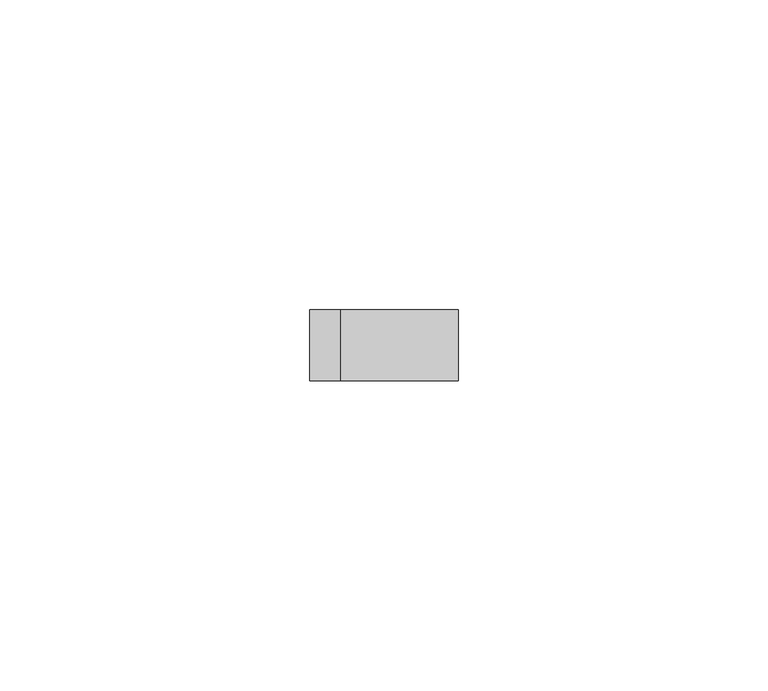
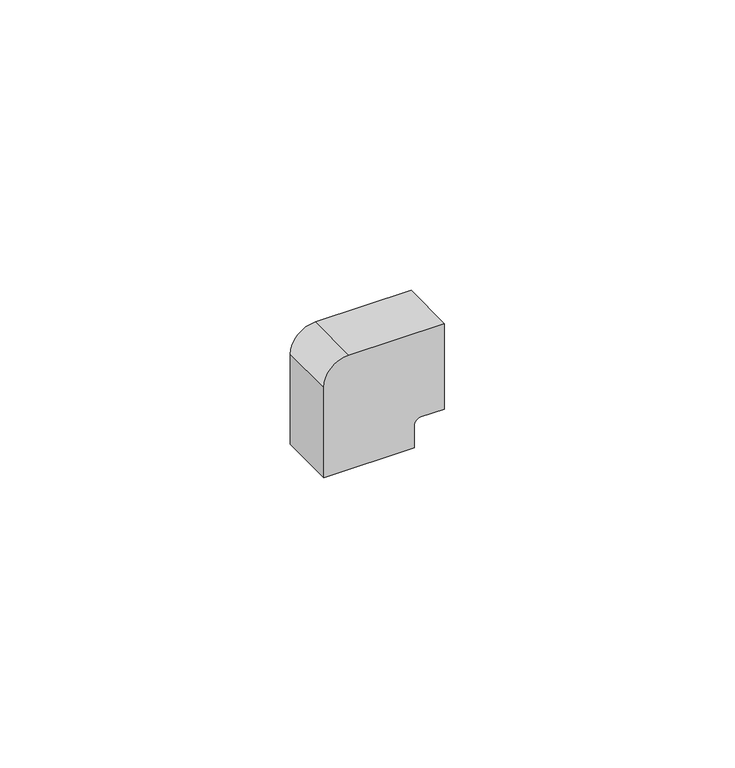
"""IFC4 building model written with IfcOpenShell, lengths in millimetres: proxy geometry, Поворот_на_90_гр.КМП : Поворот на 90 гр. КМП 15х10."""

from ifc_helpers import new_model, si_unit, point, frame, frame_2d, origin, place, context, project, spatial, polyline, circle_curve, trimmed, segment, composite_curve, outline, extrude, source, transform, mapped, element, save


def generic_models_15927b50(model_context):
    return source(origin(), model_context, "Body", "SweptSolid", [
        extrude(outline(composite_curve([segment(polyline([(2.0580612, -6.0), (6.7438905, -6.0)]), True, "CONTINUOUS"), segment(trimmed(circle_curve(frame_2d((6.7438905, -4.6858293)), 1.3141707), [point((6.7438905, -6.0))], [point((8.0580612, -4.6858293))], True, "CARTESIAN"), True, "CONTINUOUS"), segment(polyline([(8.0580612, -4.6858293), (8.0580612, 0.0), (26.0580612, 0.0), (26.0580612, -18.9954444)]), True, "CONTINUOUS"), segment(trimmed(circle_curve(frame_2d((21.0535056, -18.9954444)), 5.0045556), [point((26.0580612, -18.9954444))], [point((21.0535056, -24.0))], False, "CARTESIAN"), True, "CONTINUOUS"), segment(polyline([(21.0535056, -24.0), (2.0580612, -24.0), (2.0580612, -6.0)]), True, "CONTINUOUS")], self_intersect=False)), frame((0.0, -11.5, 0.0), z_axis=(0.0, 1.0, 0.0), x_axis=(0.0, 0.0, 1.0)), (0.0, 0.0, 1.0), 11.5),
    ])


if __name__ == "__main__":
    model = new_model("IFC4")
    model_context = context("Model", 3, world=origin())
    ifc_project = project(units=[si_unit("LENGTHUNIT", "METRE", prefix="MILLI")], contexts=[model_context])
    site = spatial("IfcSite", under=ifc_project)
    building = spatial("IfcBuilding", under=site)
    placement = place(None, origin())
    generic_models_shape = generic_models_15927b50(model_context)
    element("IfcBuildingElementProxy", 1, Name="Поворот_на_90_гр.КМП : Поворот на 90 гр. КМП 15х10", ObjectType="Поворот_на_90_гр.КМП : Поворот на 90 гр. КМП 15х10", at=placement, inside=building, context=model_context, shape_type="MappedRepresentation", body=[
        mapped(generic_models_shape, transform((0.0, 0.0, 0.0), x_axis=(1.0, 0.0, 0.0), y_axis=(0.0, 1.0, 0.0), z_axis=(0.0, 0.0, 1.0))),
    ])
    save(model, "model.ifc")
